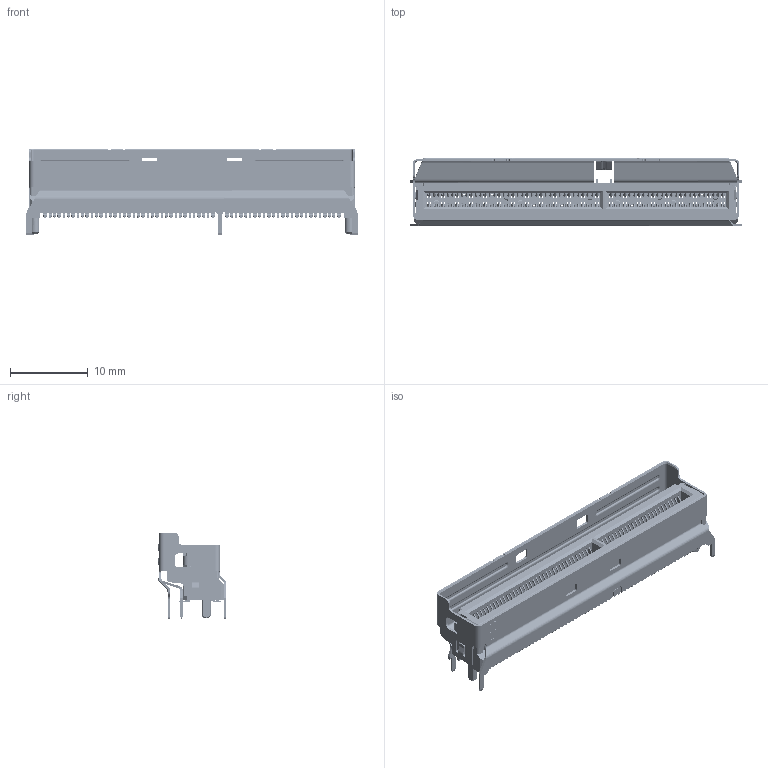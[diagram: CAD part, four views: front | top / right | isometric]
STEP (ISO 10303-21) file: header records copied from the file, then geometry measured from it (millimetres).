
FILE_DESCRIPTION((''),'2;1');
FILE_NAME('MCIO_GEN6_16X_VT_CONN_STP','2025-09-22T14:56:01',('sam_huang'),(''),'CREO PARAMETRIC BY PTC INC, 2023424','CREO PARAMETRIC BY PTC INC, 2023424','');
FILE_SCHEMA(('CONFIG_CONTROL_DESIGN'));
Products named in the file (1): MCIO_GEN6_16X_VT_CONN_STP
Bounding box: 42.75 x 8.77 x 11.1 mm (x, y, z)
Volume: 896.7 mm3; surface area: 5160.6 mm2
Topology: 1 solids, 95 shells, 12052 faces, 35215 edges, 22995 vertices
Faces by surface type: plane 8096, cylinder 3542, torus 270, cone 88, bspline 54, extrusion 2
Entity records: 406500 total; most frequent: CARTESIAN_POINT 85327, ORIENTED_EDGE 70270, DIRECTION 63662, EDGE_CURVE 35215, VECTOR 25332, LINE 25330, VERTEX_POINT 22995, AXIS2_PLACEMENT_3D 19165
